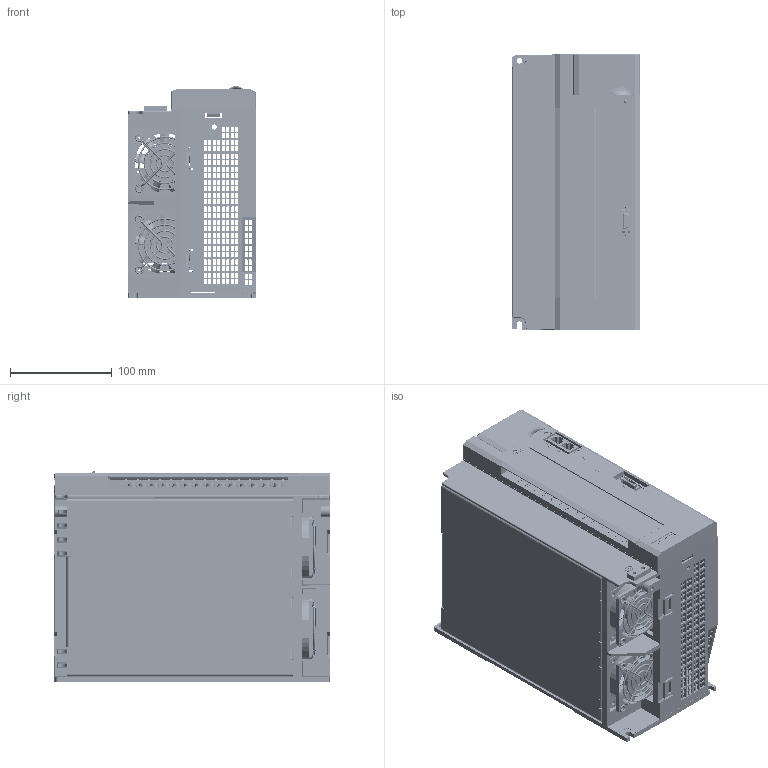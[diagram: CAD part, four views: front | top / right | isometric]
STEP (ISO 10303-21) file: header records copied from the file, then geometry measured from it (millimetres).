
FILE_DESCRIPTION (( 'STEP AP203' ), '1' );
FILE_NAME ('UMD-00[30-50]C-B3_UMD-00[30-50]E-B3.STEP', '2019-04-17T12:42:26', ( '' ), ( '' ), 'SwSTEP 2.0', 'SolidWorks 2017', '' );
FILE_SCHEMA (( 'CONFIG_CONTROL_DESIGN' ));
Products named in the file (1): UMD-00[30-50]C-B3_UMD-00[30-50]E-B3
Bounding box: 125 x 271 x 207.86 mm (x, y, z)
Surface area: 630684.1 mm2 (no closed solid volume)
Topology: 0 solids, 46 shells, 7137 faces, 21260 edges, 14099 vertices
Faces by surface type: plane 4109, cylinder 2319, bspline 666, cone 28, torus 11, sphere 4
Entity records: 274909 total; most frequent: CARTESIAN_POINT 83549, ORIENTED_EDGE 42180, DIRECTION 36682, EDGE_CURVE 21253, LINE 14808, VECTOR 14808, VERTEX_POINT 14097, AXIS2_PLACEMENT_3D 10937
